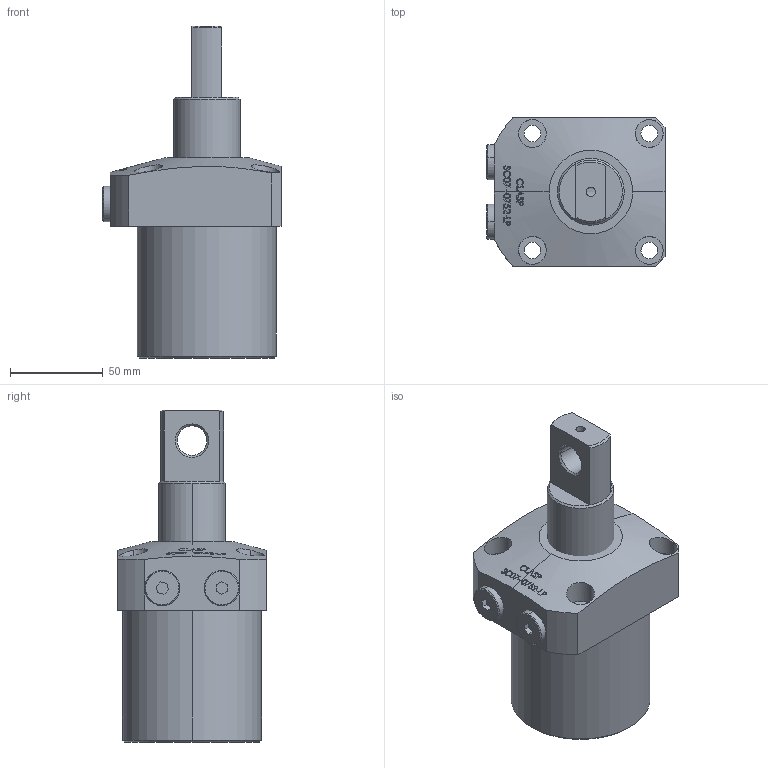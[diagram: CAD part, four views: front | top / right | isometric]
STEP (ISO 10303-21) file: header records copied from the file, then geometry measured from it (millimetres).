
FILE_DESCRIPTION (( 'STEP AP203' ), '1' );
FILE_NAME ('SC07-0752-LP.STEP', '2022-07-08T16:58:30', ( '' ), ( '' ), 'SwSTEP 2.0', 'SolidWorks 2017', '' );
FILE_SCHEMA (( 'CONFIG_CONTROL_DESIGN' ));
Length unit declared in the file: millimetre
Products named in the file (4): SC07-0752-LP; SC-07-0752-LP BODY; SC-07-0752-LP-Piston; SC-07-0752-LP- 05 plug
Assembly tree (4 placements, depth 2):
  SC07-0752-LP
    SC-07-0752-LP BODY
    SC-07-0752-LP-Piston
    SC-07-0752-LP- 05 plug  x2
Bounding box: 96 x 80 x 179 mm (x, y, z)
Volume: 606551.6 mm3; surface area: 60815.7 mm2
Topology: 4 solids, 4 shells, 314 faces, 787 edges, 518 vertices
Faces by surface type: plane 147, bspline 92, cylinder 50, cone 25
Entity records: 14785 total; most frequent: CARTESIAN_POINT 7871, ORIENTED_EDGE 1510, DIRECTION 994, EDGE_CURVE 755, VERTEX_POINT 498, VECTOR 358, LINE 358, EDGE_LOOP 347
